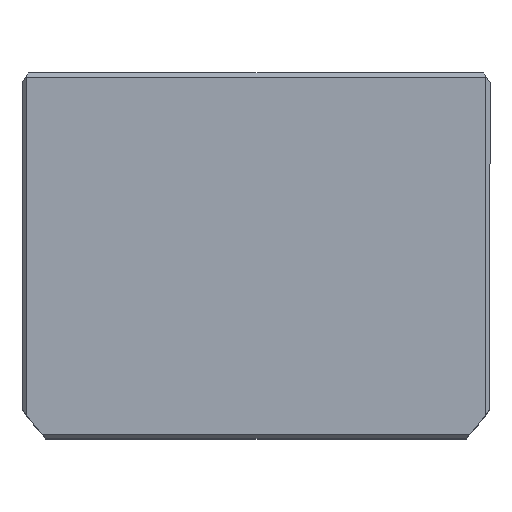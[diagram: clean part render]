
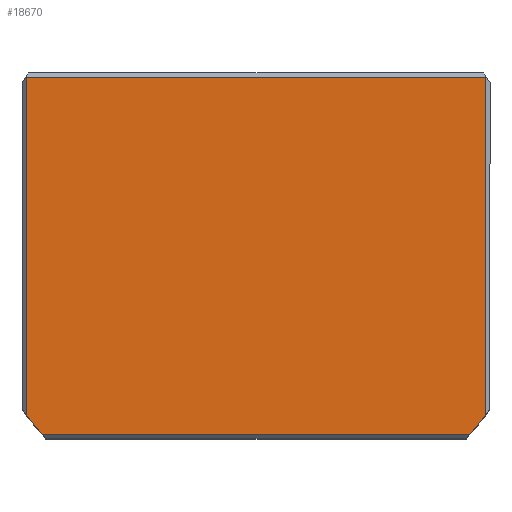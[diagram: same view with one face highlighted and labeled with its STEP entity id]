
A CAD part, top view. The second image highlights one B-rep face of the part: STEP entity #18670.
In plain terms, the highlighted planar face has unit normal (0, 0, 1) as drawn and (0, 0, -1) by its records, which use the part's own axes.
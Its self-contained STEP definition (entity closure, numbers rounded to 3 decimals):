
#235 = CARTESIAN_POINT ( 'NONE',  ( -56., 0., 0. ) ) ;
#553 = VERTEX_POINT ( 'NONE', #7624 ) ;
#619 = VECTOR ( 'NONE', #9970, 1000. ) ;
#885 = EDGE_CURVE ( 'NONE', #12230, #15531, #10357, .T. ) ;
#2331 = CARTESIAN_POINT ( 'NONE',  ( 0., -43.5, 0. ) ) ;
#2653 = EDGE_CURVE ( 'NONE', #4244, #15531, #9810, .T. ) ;
#4244 = VERTEX_POINT ( 'NONE', #8448 ) ;
#4634 = LINE ( 'NONE', #2331, #18569 ) ;
#5332 = AXIS2_PLACEMENT_3D ( 'NONE', #7823, #20541, #9649 ) ;
#5943 = FACE_OUTER_BOUND ( 'NONE', #14656, .T. ) ;
#6357 = CARTESIAN_POINT ( 'NONE',  ( 0., -2.5, 0. ) ) ;
#6623 = EDGE_CURVE ( 'NONE', #12865, #12230, #4634, .T. ) ;
#7537 = CARTESIAN_POINT ( 'NONE',  ( 56., -43.5, 0. ) ) ;
#7624 = CARTESIAN_POINT ( 'NONE',  ( 52.098, 43.5, 0. ) ) ;
#7823 = CARTESIAN_POINT ( 'NONE',  ( 0., -2.5, 0. ) ) ;
#8173 = DIRECTION ( 'NONE',  ( 1., 0., 0. ) ) ;
#8448 = CARTESIAN_POINT ( 'NONE',  ( -52.098, 43.5, 0. ) ) ;
#8733 = EDGE_CURVE ( 'NONE', #16908, #12865, #10229, .T. ) ;
#9236 = DIRECTION ( 'NONE',  ( 1., 0., 0. ) ) ;
#9649 = DIRECTION ( 'NONE',  ( 1., 0., 0. ) ) ;
#9810 = CIRCLE ( 'NONE', #20747, 69.5 ) ;
#9823 = VECTOR ( 'NONE', #15643, 1000. ) ;
#9970 = DIRECTION ( 'NONE',  ( 0., -1., 0. ) ) ;
#10228 = ORIENTED_EDGE ( 'NONE', *, *, #6623, .T. ) ;
#10229 = LINE ( 'NONE', #20781, #619 ) ;
#10357 = LINE ( 'NONE', #235, #9823 ) ;
#11372 = DIRECTION ( 'NONE',  ( -1., 0., 0. ) ) ;
#11921 = AXIS2_PLACEMENT_3D ( 'NONE', #18304, #20114, #9236 ) ;
#12226 = ORIENTED_EDGE ( 'NONE', *, *, #14565, .F. ) ;
#12230 = VERTEX_POINT ( 'NONE', #23046 ) ;
#12402 = LINE ( 'NONE', #17478, #13857 ) ;
#12865 = VERTEX_POINT ( 'NONE', #7537 ) ;
#13596 = CARTESIAN_POINT ( 'NONE',  ( -56., 38.661, 0. ) ) ;
#13857 = VECTOR ( 'NONE', #19292, 1000. ) ;
#14565 = EDGE_CURVE ( 'NONE', #16908, #553, #20200, .T. ) ;
#14595 = PLANE ( 'NONE',  #11921 ) ;
#14656 = EDGE_LOOP ( 'NONE', ( #12226, #15934, #10228, #23006, #19285, #15875 ) ) ;
#15531 = VERTEX_POINT ( 'NONE', #13596 ) ;
#15643 = DIRECTION ( 'NONE',  ( 0., 1., 0. ) ) ;
#15875 = ORIENTED_EDGE ( 'NONE', *, *, #22844, .T. ) ;
#15934 = ORIENTED_EDGE ( 'NONE', *, *, #8733, .T. ) ;
#16908 = VERTEX_POINT ( 'NONE', #23552 ) ;
#17478 = CARTESIAN_POINT ( 'NONE',  ( 0., 43.5, 0. ) ) ;
#18304 = CARTESIAN_POINT ( 'NONE',  ( 0., 0., 0. ) ) ;
#18569 = VECTOR ( 'NONE', #11372, 1000. ) ;
#18670 = ADVANCED_FACE ( 'NONE', ( #5943 ), #14595, .F. ) ;
#19074 = DIRECTION ( 'NONE',  ( 0., 0., 1. ) ) ;
#19285 = ORIENTED_EDGE ( 'NONE', *, *, #2653, .F. ) ;
#19292 = DIRECTION ( 'NONE',  ( 1., 0., 0. ) ) ;
#20114 = DIRECTION ( 'NONE',  ( 0., 0., 1. ) ) ;
#20200 = CIRCLE ( 'NONE', #5332, 69.5 ) ;
#20541 = DIRECTION ( 'NONE',  ( 0., 0., 1. ) ) ;
#20747 = AXIS2_PLACEMENT_3D ( 'NONE', #6357, #19074, #8173 ) ;
#20781 = CARTESIAN_POINT ( 'NONE',  ( 56., 0., 0. ) ) ;
#22844 = EDGE_CURVE ( 'NONE', #4244, #553, #12402, .T. ) ;
#23006 = ORIENTED_EDGE ( 'NONE', *, *, #885, .T. ) ;
#23046 = CARTESIAN_POINT ( 'NONE',  ( -56., -43.5, 0. ) ) ;
#23552 = CARTESIAN_POINT ( 'NONE',  ( 56., 38.661, 0. ) ) ;
